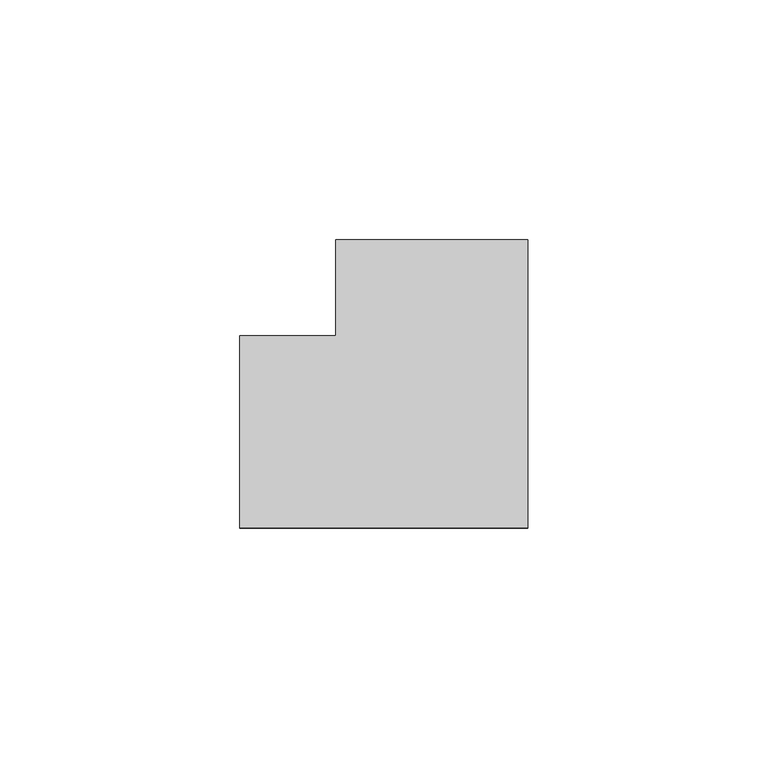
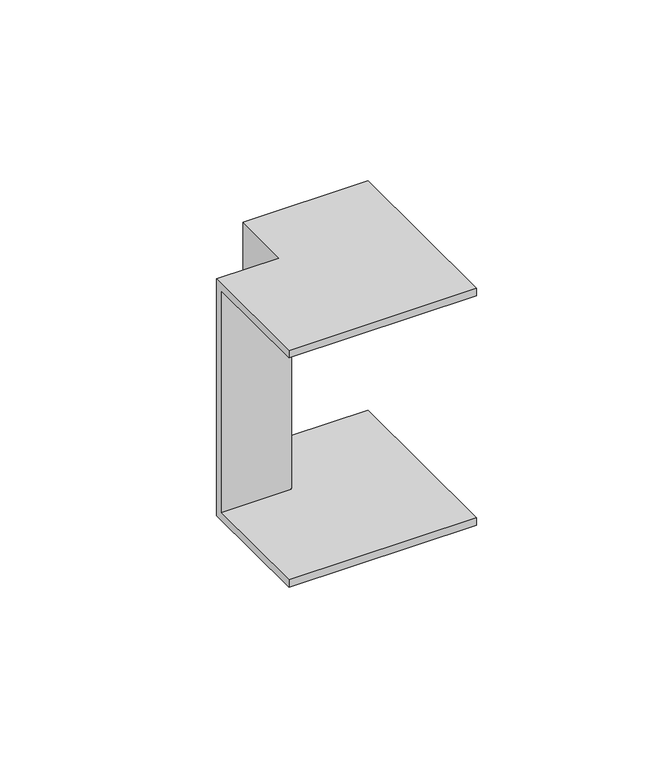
"""IFC4 building model written with IfcOpenShell, lengths in millimetres: cable carrier fitting geometry, КНС_УголВнешний_ILC_DKC : Угол внешний_DKC."""

from ifc_helpers import new_model, si_unit, origin, place, context, project, spatial, faceted_brep, source, transform, mapped, element, save


def cable_carrier_fitting_116519d1(model_context):
    return source(origin(), model_context, "Body", "Brep", [
        faceted_brep([(-40.0, 20.0, 40.0), (-40.0, 20.0, -40.0), (-40.0, -20.0, -40.0), (-40.0, -20.0, -37.5), (-40.0, 17.5, -37.5), (-40.0, 17.5, 37.5), (-40.0, -20.0, 37.5), (-40.0, -20.0, 40.0), (-20.0, 40.0, 40.0), (20.0, 40.0, 40.0), (20.0, 40.0, 37.5), (-17.5, 40.0, 37.5), (-17.5, 40.0, -37.5), (20.0, 40.0, -37.5), (20.0, 40.0, -40.0), (-20.0, 40.0, -40.0), (-20.0, 20.0, 40.0), (-20.0, 20.0, -40.0), (20.0, -20.0, -40.0), (20.0, -20.0, -37.5), (-17.5, 17.5, -37.5), (-17.5, 17.5, 37.5), (20.0, -20.0, 37.5), (20.0, -20.0, 40.0)], [[[0, 1, 2, 3, 4, 5, 6, 7]], [[8, 9, 10, 11, 12, 13, 14, 15]], [[1, 0, 16, 17]], [[2, 1, 17, 15, 14, 18]], [[3, 2, 18, 19]], [[4, 3, 19, 13, 12, 20]], [[5, 4, 20, 21]], [[6, 5, 21, 11, 10, 22]], [[7, 6, 22, 23]], [[0, 7, 23, 9, 8, 16]], [[17, 16, 8, 15]], [[19, 18, 14, 13]], [[21, 20, 12, 11]], [[23, 22, 10, 9]]]),
    ])


if __name__ == "__main__":
    model = new_model("IFC4")
    model_context = context("Model", 3, world=origin())
    ifc_project = project(units=[si_unit("LENGTHUNIT", "METRE", prefix="MILLI")], contexts=[model_context])
    site = spatial("IfcSite", under=ifc_project)
    building = spatial("IfcBuilding", under=site)
    placement = place(None, origin())
    cable_carrier_fitting_shape = cable_carrier_fitting_116519d1(model_context)
    element("IfcCableCarrierFitting", 1, ObjectType="КНС_УголВнешний_ILC_DKC : Угол внешний_DKC", at=placement, inside=building, context=model_context, shape_type="MappedRepresentation", body=[
        mapped(cable_carrier_fitting_shape, transform((0.0, 0.0, 0.0), x_axis=(1.0, 0.0, 0.0), y_axis=(0.0, 1.0, 0.0), z_axis=(0.0, 0.0, 1.0))),
    ])
    save(model, "model.ifc")
